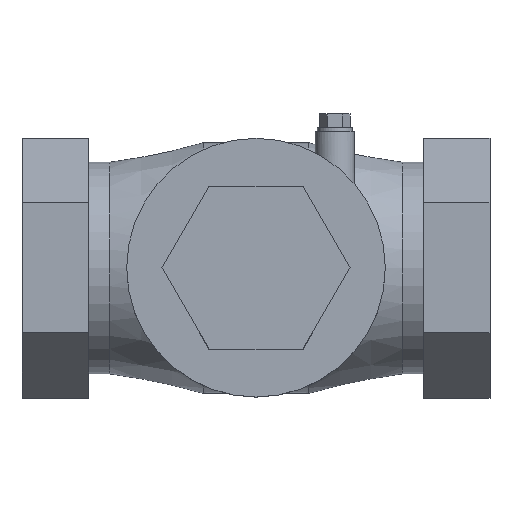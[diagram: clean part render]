
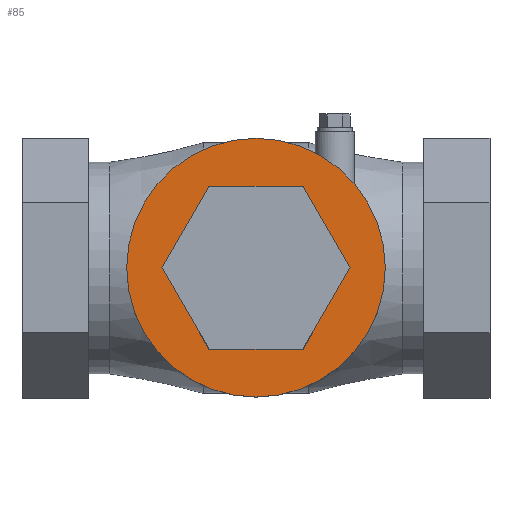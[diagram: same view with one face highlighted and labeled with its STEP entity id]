
A CAD part, top view. The second image highlights one B-rep face of the part: STEP entity #85.
In plain terms, the highlighted planar face has unit normal (0, 0, 1).
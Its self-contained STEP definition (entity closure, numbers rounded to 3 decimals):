
#85 = ADVANCED_FACE('',(#86,#126),#99,.T.);
#86 = FACE_BOUND('',#87,.T.);
#87 = EDGE_LOOP('',(#88));
#88 = ORIENTED_EDGE('',*,*,#89,.F.);
#89 = EDGE_CURVE('',#90,#90,#92,.T.);
#90 = VERTEX_POINT('',#91);
#91 = CARTESIAN_POINT('',(4.247,0.,2.58));
#92 = SURFACE_CURVE('',#93,(#98,#114),.PCURVE_S1.);
#93 = CIRCLE('',#94,1.512);
#94 = AXIS2_PLACEMENT_3D('',#95,#96,#97);
#95 = CARTESIAN_POINT('',(2.735,0.,2.58));
#96 = DIRECTION('',(0.,0.,-1.));
#97 = DIRECTION('',(1.,0.,0.));
#98 = PCURVE('',#99,#104);
#99 = PLANE('',#100);
#100 = AXIS2_PLACEMENT_3D('',#101,#102,#103);
#101 = CARTESIAN_POINT('',(2.735,0.,2.58));
#102 = DIRECTION('',(0.,0.,1.));
#103 = DIRECTION('',(1.,0.,-0.));
#104 = DEFINITIONAL_REPRESENTATION('',(#105),#113);
#105 = ( BOUNDED_CURVE() B_SPLINE_CURVE(2,(#106,#107,#108,#109,#110,#111
,#112),.UNSPECIFIED.,.T.,.F.) B_SPLINE_CURVE_WITH_KNOTS((1,2,2,2,2,1),(
    -2.094,0.,2.094,4.189,6.283,
8.378),.UNSPECIFIED.) CURVE() GEOMETRIC_REPRESENTATION_ITEM() 
RATIONAL_B_SPLINE_CURVE((1.,0.5,1.,0.5,1.,0.5,1.)) REPRESENTATION_ITEM(
  '') );
#106 = CARTESIAN_POINT('',(1.512,0.));
#107 = CARTESIAN_POINT('',(1.512,-2.618));
#108 = CARTESIAN_POINT('',(-0.756,-1.309));
#109 = CARTESIAN_POINT('',(-3.023,0.));
#110 = CARTESIAN_POINT('',(-0.756,1.309));
#111 = CARTESIAN_POINT('',(1.512,2.618));
#112 = CARTESIAN_POINT('',(1.512,0.));
#113 = ( GEOMETRIC_REPRESENTATION_CONTEXT(2) 
PARAMETRIC_REPRESENTATION_CONTEXT() REPRESENTATION_CONTEXT('2D SPACE',''
  ) );
#114 = PCURVE('',#115,#120);
#115 = CYLINDRICAL_SURFACE('',#116,1.512);
#116 = AXIS2_PLACEMENT_3D('',#117,#118,#119);
#117 = CARTESIAN_POINT('',(2.735,0.,1.97));
#118 = DIRECTION('',(0.,0.,1.));
#119 = DIRECTION('',(1.,0.,-0.));
#120 = DEFINITIONAL_REPRESENTATION('',(#121),#125);
#121 = LINE('',#122,#123);
#122 = CARTESIAN_POINT('',(6.283,0.61));
#123 = VECTOR('',#124,1.);
#124 = DIRECTION('',(-1.,0.));
#125 = ( GEOMETRIC_REPRESENTATION_CONTEXT(2) 
PARAMETRIC_REPRESENTATION_CONTEXT() REPRESENTATION_CONTEXT('2D SPACE',''
  ) );
#126 = FACE_BOUND('',#127,.T.);
#127 = EDGE_LOOP('',(#128,#158,#186,#214,#242,#270));
#128 = ORIENTED_EDGE('',*,*,#129,.F.);
#129 = EDGE_CURVE('',#130,#132,#134,.T.);
#130 = VERTEX_POINT('',#131);
#131 = CARTESIAN_POINT('',(2.186,-0.952,2.58));
#132 = VERTEX_POINT('',#133);
#133 = CARTESIAN_POINT('',(3.284,-0.952,2.58));
#134 = SURFACE_CURVE('',#135,(#139,#146),.PCURVE_S1.);
#135 = LINE('',#136,#137);
#136 = CARTESIAN_POINT('',(2.186,-0.952,2.58));
#137 = VECTOR('',#138,1.);
#138 = DIRECTION('',(1.,0.,0.));
#139 = PCURVE('',#99,#140);
#140 = DEFINITIONAL_REPRESENTATION('',(#141),#145);
#141 = LINE('',#142,#143);
#142 = CARTESIAN_POINT('',(-0.549,-0.952));
#143 = VECTOR('',#144,1.);
#144 = DIRECTION('',(1.,0.));
#145 = ( GEOMETRIC_REPRESENTATION_CONTEXT(2) 
PARAMETRIC_REPRESENTATION_CONTEXT() REPRESENTATION_CONTEXT('2D SPACE',''
  ) );
#146 = PCURVE('',#147,#152);
#147 = PLANE('',#148);
#148 = AXIS2_PLACEMENT_3D('',#149,#150,#151);
#149 = CARTESIAN_POINT('',(2.735,-0.952,2.58));
#150 = DIRECTION('',(0.,-1.,0.));
#151 = DIRECTION('',(1.,0.,0.));
#152 = DEFINITIONAL_REPRESENTATION('',(#153),#157);
#153 = LINE('',#154,#155);
#154 = CARTESIAN_POINT('',(-0.549,0.));
#155 = VECTOR('',#156,1.);
#156 = DIRECTION('',(1.,0.));
#157 = ( GEOMETRIC_REPRESENTATION_CONTEXT(2) 
PARAMETRIC_REPRESENTATION_CONTEXT() REPRESENTATION_CONTEXT('2D SPACE',''
  ) );
#158 = ORIENTED_EDGE('',*,*,#159,.F.);
#159 = EDGE_CURVE('',#160,#130,#162,.T.);
#160 = VERTEX_POINT('',#161);
#161 = CARTESIAN_POINT('',(1.636,0.,2.58));
#162 = SURFACE_CURVE('',#163,(#167,#174),.PCURVE_S1.);
#163 = LINE('',#164,#165);
#164 = CARTESIAN_POINT('',(1.636,0.,2.58));
#165 = VECTOR('',#166,1.);
#166 = DIRECTION('',(0.5,-0.866,0.));
#167 = PCURVE('',#99,#168);
#168 = DEFINITIONAL_REPRESENTATION('',(#169),#173);
#169 = LINE('',#170,#171);
#170 = CARTESIAN_POINT('',(-1.099,0.));
#171 = VECTOR('',#172,1.);
#172 = DIRECTION('',(0.5,-0.866));
#173 = ( GEOMETRIC_REPRESENTATION_CONTEXT(2) 
PARAMETRIC_REPRESENTATION_CONTEXT() REPRESENTATION_CONTEXT('2D SPACE',''
  ) );
#174 = PCURVE('',#175,#180);
#175 = PLANE('',#176);
#176 = AXIS2_PLACEMENT_3D('',#177,#178,#179);
#177 = CARTESIAN_POINT('',(1.911,-0.476,2.58));
#178 = DIRECTION('',(-0.866,-0.5,0.));
#179 = DIRECTION('',(0.5,-0.866,0.));
#180 = DEFINITIONAL_REPRESENTATION('',(#181),#185);
#181 = LINE('',#182,#183);
#182 = CARTESIAN_POINT('',(-0.549,0.));
#183 = VECTOR('',#184,1.);
#184 = DIRECTION('',(1.,0.));
#185 = ( GEOMETRIC_REPRESENTATION_CONTEXT(2) 
PARAMETRIC_REPRESENTATION_CONTEXT() REPRESENTATION_CONTEXT('2D SPACE',''
  ) );
#186 = ORIENTED_EDGE('',*,*,#187,.F.);
#187 = EDGE_CURVE('',#188,#160,#190,.T.);
#188 = VERTEX_POINT('',#189);
#189 = CARTESIAN_POINT('',(2.186,0.952,2.58));
#190 = SURFACE_CURVE('',#191,(#195,#202),.PCURVE_S1.);
#191 = LINE('',#192,#193);
#192 = CARTESIAN_POINT('',(2.186,0.952,2.58));
#193 = VECTOR('',#194,1.);
#194 = DIRECTION('',(-0.5,-0.866,0.));
#195 = PCURVE('',#99,#196);
#196 = DEFINITIONAL_REPRESENTATION('',(#197),#201);
#197 = LINE('',#198,#199);
#198 = CARTESIAN_POINT('',(-0.549,0.952));
#199 = VECTOR('',#200,1.);
#200 = DIRECTION('',(-0.5,-0.866));
#201 = ( GEOMETRIC_REPRESENTATION_CONTEXT(2) 
PARAMETRIC_REPRESENTATION_CONTEXT() REPRESENTATION_CONTEXT('2D SPACE',''
  ) );
#202 = PCURVE('',#203,#208);
#203 = PLANE('',#204);
#204 = AXIS2_PLACEMENT_3D('',#205,#206,#207);
#205 = CARTESIAN_POINT('',(1.911,0.476,2.58));
#206 = DIRECTION('',(-0.866,0.5,0.));
#207 = DIRECTION('',(-0.5,-0.866,0.));
#208 = DEFINITIONAL_REPRESENTATION('',(#209),#213);
#209 = LINE('',#210,#211);
#210 = CARTESIAN_POINT('',(-0.549,0.));
#211 = VECTOR('',#212,1.);
#212 = DIRECTION('',(1.,0.));
#213 = ( GEOMETRIC_REPRESENTATION_CONTEXT(2) 
PARAMETRIC_REPRESENTATION_CONTEXT() REPRESENTATION_CONTEXT('2D SPACE',''
  ) );
#214 = ORIENTED_EDGE('',*,*,#215,.F.);
#215 = EDGE_CURVE('',#216,#188,#218,.T.);
#216 = VERTEX_POINT('',#217);
#217 = CARTESIAN_POINT('',(3.284,0.952,2.58));
#218 = SURFACE_CURVE('',#219,(#223,#230),.PCURVE_S1.);
#219 = LINE('',#220,#221);
#220 = CARTESIAN_POINT('',(3.284,0.952,2.58));
#221 = VECTOR('',#222,1.);
#222 = DIRECTION('',(-1.,0.,0.));
#223 = PCURVE('',#99,#224);
#224 = DEFINITIONAL_REPRESENTATION('',(#225),#229);
#225 = LINE('',#226,#227);
#226 = CARTESIAN_POINT('',(0.549,0.952));
#227 = VECTOR('',#228,1.);
#228 = DIRECTION('',(-1.,0.));
#229 = ( GEOMETRIC_REPRESENTATION_CONTEXT(2) 
PARAMETRIC_REPRESENTATION_CONTEXT() REPRESENTATION_CONTEXT('2D SPACE',''
  ) );
#230 = PCURVE('',#231,#236);
#231 = PLANE('',#232);
#232 = AXIS2_PLACEMENT_3D('',#233,#234,#235);
#233 = CARTESIAN_POINT('',(2.735,0.952,2.58));
#234 = DIRECTION('',(0.,1.,0.));
#235 = DIRECTION('',(-1.,0.,0.));
#236 = DEFINITIONAL_REPRESENTATION('',(#237),#241);
#237 = LINE('',#238,#239);
#238 = CARTESIAN_POINT('',(-0.549,0.));
#239 = VECTOR('',#240,1.);
#240 = DIRECTION('',(1.,0.));
#241 = ( GEOMETRIC_REPRESENTATION_CONTEXT(2) 
PARAMETRIC_REPRESENTATION_CONTEXT() REPRESENTATION_CONTEXT('2D SPACE',''
  ) );
#242 = ORIENTED_EDGE('',*,*,#243,.F.);
#243 = EDGE_CURVE('',#244,#216,#246,.T.);
#244 = VERTEX_POINT('',#245);
#245 = CARTESIAN_POINT('',(3.834,0.,2.58));
#246 = SURFACE_CURVE('',#247,(#251,#258),.PCURVE_S1.);
#247 = LINE('',#248,#249);
#248 = CARTESIAN_POINT('',(3.834,0.,2.58));
#249 = VECTOR('',#250,1.);
#250 = DIRECTION('',(-0.5,0.866,0.));
#251 = PCURVE('',#99,#252);
#252 = DEFINITIONAL_REPRESENTATION('',(#253),#257);
#253 = LINE('',#254,#255);
#254 = CARTESIAN_POINT('',(1.099,0.));
#255 = VECTOR('',#256,1.);
#256 = DIRECTION('',(-0.5,0.866));
#257 = ( GEOMETRIC_REPRESENTATION_CONTEXT(2) 
PARAMETRIC_REPRESENTATION_CONTEXT() REPRESENTATION_CONTEXT('2D SPACE',''
  ) );
#258 = PCURVE('',#259,#264);
#259 = PLANE('',#260);
#260 = AXIS2_PLACEMENT_3D('',#261,#262,#263);
#261 = CARTESIAN_POINT('',(3.559,0.476,2.58));
#262 = DIRECTION('',(0.866,0.5,0.));
#263 = DIRECTION('',(-0.5,0.866,0.));
#264 = DEFINITIONAL_REPRESENTATION('',(#265),#269);
#265 = LINE('',#266,#267);
#266 = CARTESIAN_POINT('',(-0.549,0.));
#267 = VECTOR('',#268,1.);
#268 = DIRECTION('',(1.,0.));
#269 = ( GEOMETRIC_REPRESENTATION_CONTEXT(2) 
PARAMETRIC_REPRESENTATION_CONTEXT() REPRESENTATION_CONTEXT('2D SPACE',''
  ) );
#270 = ORIENTED_EDGE('',*,*,#271,.F.);
#271 = EDGE_CURVE('',#132,#244,#272,.T.);
#272 = SURFACE_CURVE('',#273,(#277,#284),.PCURVE_S1.);
#273 = LINE('',#274,#275);
#274 = CARTESIAN_POINT('',(3.284,-0.952,2.58));
#275 = VECTOR('',#276,1.);
#276 = DIRECTION('',(0.5,0.866,0.));
#277 = PCURVE('',#99,#278);
#278 = DEFINITIONAL_REPRESENTATION('',(#279),#283);
#279 = LINE('',#280,#281);
#280 = CARTESIAN_POINT('',(0.549,-0.952));
#281 = VECTOR('',#282,1.);
#282 = DIRECTION('',(0.5,0.866));
#283 = ( GEOMETRIC_REPRESENTATION_CONTEXT(2) 
PARAMETRIC_REPRESENTATION_CONTEXT() REPRESENTATION_CONTEXT('2D SPACE',''
  ) );
#284 = PCURVE('',#285,#290);
#285 = PLANE('',#286);
#286 = AXIS2_PLACEMENT_3D('',#287,#288,#289);
#287 = CARTESIAN_POINT('',(3.559,-0.476,2.58));
#288 = DIRECTION('',(0.866,-0.5,0.));
#289 = DIRECTION('',(0.5,0.866,0.));
#290 = DEFINITIONAL_REPRESENTATION('',(#291),#295);
#291 = LINE('',#292,#293);
#292 = CARTESIAN_POINT('',(-0.549,0.));
#293 = VECTOR('',#294,1.);
#294 = DIRECTION('',(1.,0.));
#295 = ( GEOMETRIC_REPRESENTATION_CONTEXT(2) 
PARAMETRIC_REPRESENTATION_CONTEXT() REPRESENTATION_CONTEXT('2D SPACE',''
  ) );
